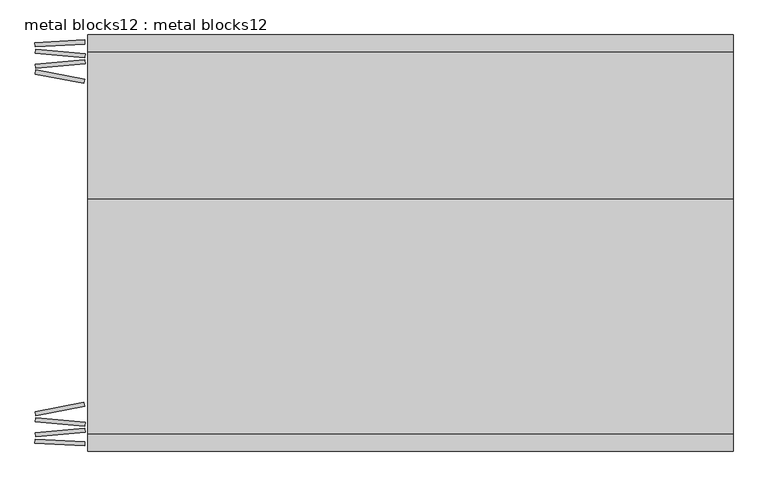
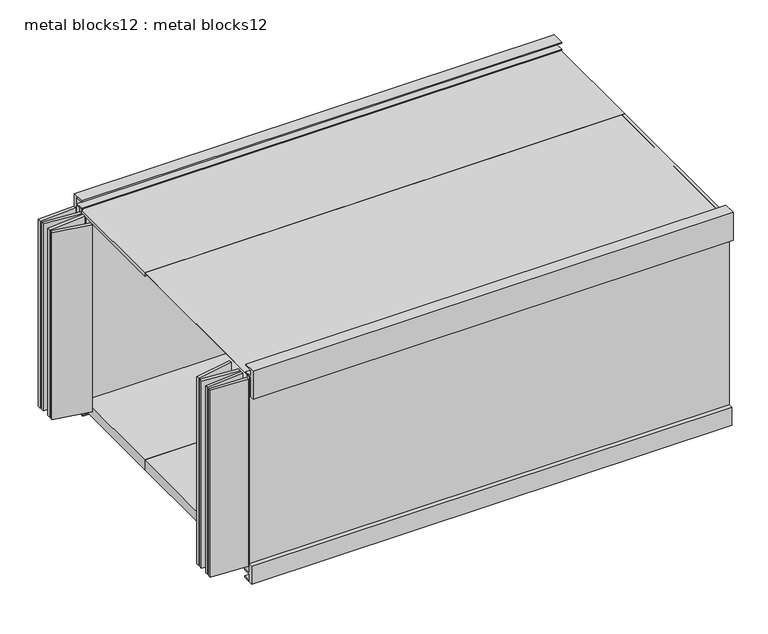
"""IFC4 building model written with IfcOpenShell, lengths in millimetres: proxy geometry, metal blocks12 : metal blocks12."""

from ifc_helpers import new_model, si_unit, frame, origin, origin_with_axes, place, context, project, spatial, polyline, outline, extrude, faceted_brep, source, transform, mapped, element, save


def metal_blocks12_metal_blocks12_015d9ee2(model_context):
    return source(origin(), model_context, "Body", "SolidModel", [
        extrude(outline(polyline([(6000.0, 3573.0438722), (6000.0, 2261.9), (5940.0, 2261.9), (5940.0, 3573.0438722), (6000.0, 3573.0438722)])), frame((0.0, 0.0, 127.0), z_axis=(0.0, 0.0, 1.0), x_axis=(1.0, 0.0, 0.0)), (0.0, 0.0, 1.0), 2428.4287665),
        extrude(outline(polyline([(6000.0, 2261.9), (0.0, 2261.9), (0.0, 3630.0), (6000.0, 3630.0), (6000.0, 2261.9)])), origin_with_axes(), (0.0, 0.0, 1.0), 127.0),
        faceted_brep([(0.0, 3630.0, 2600.0), (0.0, 2261.9, 2600.0), (6000.0, 2261.9, 2600.0), (6000.0, 3700.0, 2600.0), (20.0, 3700.0, 2600.0), (20.0, 3630.0, 2600.0), (6000.0, 2261.9, 2555.4287665), (0.0, 2261.9, 2555.4287665), (0.0, 3630.0, 2555.4287665), (20.0, 3630.0, 2555.4287665), (20.0, 3560.0, 2555.4287665), (6000.0, 3560.0, 2555.4287665), (6000.0, 3560.0, 0.0), (6000.0, 3700.0, 0.0), (20.0, 3700.0, 0.0), (20.0, 3560.0, 0.0)], [[[0, 1, 2, 3, 4, 5]], [[6, 7, 8, 9, 10, 11]], [[1, 0, 8, 7]], [[2, 1, 7, 6]], [[3, 2, 6, 11, 12, 13]], [[8, 0, 5, 9]], [[14, 13, 12, 15]], [[14, 15, 10, 9, 5, 4]], [[15, 12, 11, 10]], [[13, 14, 4, 3]]]),
        extrude(outline(polyline([(-31.6672132, 3370.6634988), (-38.9370359, 3333.2635031), (-492.3506319, 3421.3981781), (-485.0808092, 3458.7981738), (-31.6672132, 3370.6634988)])), frame((0.0, 0.0, 127.0), z_axis=(0.0, 0.0, 1.0), x_axis=(1.0, 0.0, 0.0)), (0.0, 0.0, 1.0), 2472.0),
        extrude(outline(polyline([(-30.6391514, 3554.3561278), (-27.3185176, 3516.4011098), (-487.4608486, 3476.1438722), (-490.7814824, 3514.0988902), (-30.6391514, 3554.3561278)])), frame((0.0, 0.0, 127.0), z_axis=(0.0, 0.0, 1.0), x_axis=(1.0, 0.0, 0.0)), (0.0, 0.0, 1.0), 2472.0),
        extrude(outline(polyline([(-27.3185176, 3610.9988902), (-30.6391514, 3573.0438722), (-490.7814824, 3613.3011098), (-487.4608486, 3651.2561278), (-27.3185176, 3610.9988902)])), frame((0.0, 0.0, 127.0), z_axis=(0.0, 0.0, 1.0), x_axis=(1.0, 0.0, 0.0)), (0.0, 0.0, 1.0), 2472.0),
        extrude(outline(polyline([(-491.2669821, 3675.8260218), (-493.260982, 3713.8738071), (-31.9939999, 3738.0477853), (-30.0, 3700.0), (-491.2669821, 3675.8260218)])), frame((0.0, 0.0, 127.0), z_axis=(0.0, 0.0, 1.0), x_axis=(1.0, 0.0, 0.0)), (0.0, 0.0, 1.0), 2472.0),
        extrude(outline(polyline([(-31.6672132, 329.3365012), (-485.0808092, 241.2018262), (-492.3506319, 278.6018219), (-38.9370359, 366.7364969), (-31.6672132, 329.3365012)])), frame((0.0, 0.0, 127.0), z_axis=(0.0, 0.0, 1.0), x_axis=(1.0, 0.0, 0.0)), (0.0, 0.0, 1.0), 2472.0),
        extrude(outline(polyline([(-30.6391514, 145.6438722), (-490.7814824, 185.9011098), (-487.4608486, 223.8561278), (-27.3185176, 183.5988902), (-30.6391514, 145.6438722)])), frame((0.0, 0.0, 127.0), z_axis=(0.0, 0.0, 1.0), x_axis=(1.0, 0.0, 0.0)), (0.0, 0.0, 1.0), 2472.0),
        extrude(outline(polyline([(-27.3185176, 89.0011098), (-487.4608486, 48.7438722), (-490.7814824, 86.6988902), (-30.6391514, 126.9561278), (-27.3185176, 89.0011098)])), frame((0.0, 0.0, 127.0), z_axis=(0.0, 0.0, 1.0), x_axis=(1.0, 0.0, 0.0)), (0.0, 0.0, 1.0), 2472.0),
        extrude(outline(polyline([(3630.0, 2720.0), (3785.0, 2720.0), (3785.0, 2350.0), (3730.0, 2350.0), (3730.0, 2610.0), (3630.0, 2610.0), (3630.0, 2625.0), (3730.0, 2625.0), (3730.0, 2705.0), (3630.0, 2705.0), (3630.0, 2720.0)])), frame((0.0, 0.0, 0.0), z_axis=(1.0, 0.0, 0.0), x_axis=(0.0, 1.0, 0.0)), (0.0, 0.0, 1.0), 6000.0),
        extrude(outline(polyline([(70.0, 2720.0), (70.0, 2705.0), (-30.0, 2705.0), (-30.0, 2625.0), (70.0, 2625.0), (70.0, 2610.0), (-30.0, 2610.0), (-30.0, 2350.0), (-85.0, 2350.0), (-85.0, 2720.0), (70.0, 2720.0)])), frame((0.0, 0.0, 0.0), z_axis=(1.0, 0.0, 0.0), x_axis=(0.0, 1.0, 0.0)), (0.0, 0.0, 1.0), 6000.0),
        extrude(outline(polyline([(3600.0, 0.0), (3700.0, 0.0), (3700.0, 130.0), (3755.0, 130.0), (3755.0, -110.0), (3600.0, -110.0), (3600.0, -95.0), (3700.0, -95.0), (3700.0, -15.0), (3600.0, -15.0), (3600.0, 0.0)])), frame((0.0, 0.0, 0.0), z_axis=(1.0, 0.0, 0.0), x_axis=(0.0, 1.0, 0.0)), (0.0, 0.0, 1.0), 6000.0),
        extrude(outline(polyline([(100.0, 0.0), (100.0, -15.0), (0.0, -15.0), (0.0, -95.0), (100.0, -95.0), (100.0, -110.0), (-55.0, -110.0), (-55.0, 130.0), (0.0, 130.0), (0.0, 0.0), (100.0, 0.0)])), frame((0.0, 0.0, 0.0), z_axis=(1.0, 0.0, 0.0), x_axis=(0.0, 1.0, 0.0)), (0.0, 0.0, 1.0), 6000.0),
        extrude(outline(polyline([(-491.2669821, 24.1739782), (-30.0, 0.0), (-31.9939999, -38.0477853), (-493.260982, -13.8738071), (-491.2669821, 24.1739782)])), frame((0.0, 0.0, 127.0), z_axis=(0.0, 0.0, 1.0), x_axis=(1.0, 0.0, 0.0)), (0.0, 0.0, 1.0), 2472.0),
        faceted_brep([(6000.0, 0.0, 2600.0), (6000.0, 2261.9, 2600.0), (0.0, 2261.9, 2600.0), (0.0, 0.0, 2600.0), (6000.0, 0.0, 0.0), (0.0, 0.0, 0.0), (0.0, 2261.9, 0.0), (6000.0, 2261.9, 0.0), (0.0, 2261.9, 127.0), (5961.9, 2261.9, 127.0), (5961.9, 2261.9, 2599.0), (0.0, 2261.9, 2599.0), (0.0, 38.1, 2599.0), (0.0, 38.1, 127.0), (5961.9, 38.1, 2599.0), (5961.9, 38.1, 127.0)], [[[0, 1, 2, 3]], [[4, 5, 6, 7]], [[1, 0, 4, 7]], [[2, 1, 7, 6, 8, 9, 10, 11]], [[3, 2, 11, 12, 13, 8, 6, 5]], [[0, 3, 5, 4]], [[10, 14, 12, 11]], [[13, 15, 9, 8]], [[14, 15, 13, 12]], [[15, 14, 10, 9]]]),
    ])


if __name__ == "__main__":
    model = new_model("IFC4")
    model_context = context("Model", 3, world=origin())
    ifc_project = project(units=[si_unit("LENGTHUNIT", "METRE", prefix="MILLI")], contexts=[model_context])
    site = spatial("IfcSite", under=ifc_project)
    building = spatial("IfcBuilding", under=site)
    placement = place(None, origin())
    metal_blocks12_metal_blocks12_shape = metal_blocks12_metal_blocks12_015d9ee2(model_context)
    element("IfcBuildingElementProxy", 1, Name="metal blocks12 : metal blocks12", ObjectType="metal blocks12 : metal blocks12", at=placement, inside=building, context=model_context, shape_type="MappedRepresentation", body=[
        mapped(metal_blocks12_metal_blocks12_shape, transform((0.0, 0.0, 0.0), x_axis=(1.0, 0.0, 0.0), y_axis=(0.0, 1.0, 0.0), z_axis=(0.0, 0.0, 1.0))),
    ])
    save(model, "model.ifc")
